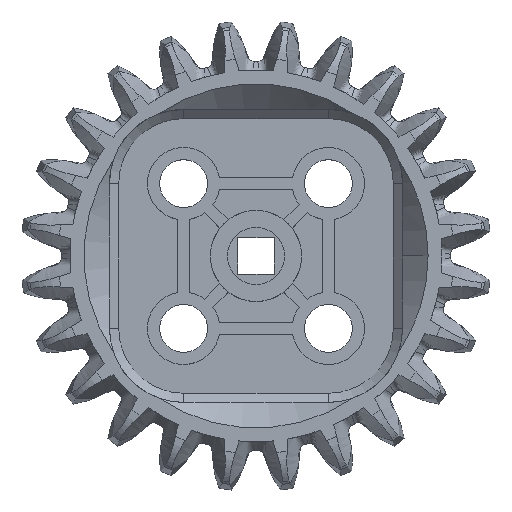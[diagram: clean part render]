
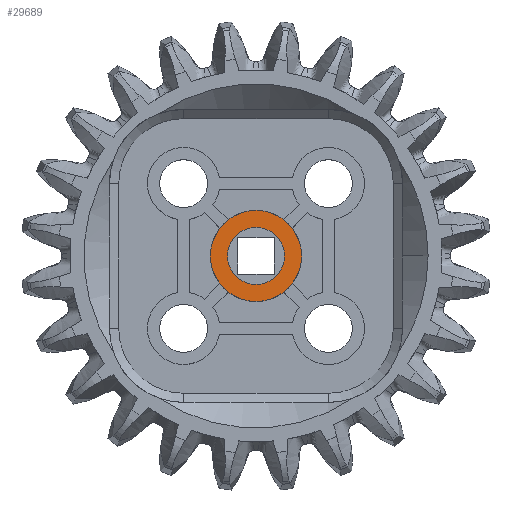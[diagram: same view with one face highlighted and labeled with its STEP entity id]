
A CAD part, top view. The second image highlights one B-rep face of the part: STEP entity #29689.
In plain terms, the highlighted planar face has unit normal (0, 0, 1).
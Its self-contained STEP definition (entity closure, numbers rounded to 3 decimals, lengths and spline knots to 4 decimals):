
#3144 = AXIS2_PLACEMENT_3D ( 'NONE', #42223, #20837, #34413 ) ;
#3220 = AXIS2_PLACEMENT_3D ( 'NONE', #28718, #32628, #7077 ) ;
#4988 = CIRCLE ( 'NONE', #3220, 2.5 ) ;
#7077 = DIRECTION ( 'NONE',  ( 1., 0., 0. ) ) ;
#7101 = EDGE_CURVE ( 'NONE', #10433, #46713, #52846, .T. ) ;
#7162 = CARTESIAN_POINT ( 'NONE',  ( 0., 0., 3.175 ) ) ;
#7825 = CIRCLE ( 'NONE', #8703, 2.5 ) ;
#8298 = AXIS2_PLACEMENT_3D ( 'NONE', #42264, #25310, #38646 ) ;
#8703 = AXIS2_PLACEMENT_3D ( 'NONE', #7162, #10762, #53287 ) ;
#9765 = CARTESIAN_POINT ( 'NONE',  ( 0., 0., 3.175 ) ) ;
#10433 = VERTEX_POINT ( 'NONE', #47505 ) ;
#10734 = EDGE_LOOP ( 'NONE', ( #36757, #33454 ) ) ;
#10762 = DIRECTION ( 'NONE',  ( 0., 0., -1. ) ) ;
#11031 = EDGE_CURVE ( 'NONE', #36603, #46009, #4988, .T. ) ;
#11974 = FACE_BOUND ( 'NONE', #28181, .T. ) ;
#17472 = ORIENTED_EDGE ( 'NONE', *, *, #38043, .T. ) ;
#18589 = CARTESIAN_POINT ( 'NONE',  ( 2.5, 0., 3.175 ) ) ;
#20837 = DIRECTION ( 'NONE',  ( 0., 0., 1. ) ) ;
#23334 = ORIENTED_EDGE ( 'NONE', *, *, #11031, .T. ) ;
#25310 = DIRECTION ( 'NONE',  ( 0., 0., 1. ) ) ;
#25526 = CIRCLE ( 'NONE', #32614, 4. ) ;
#26440 = DIRECTION ( 'NONE',  ( 1., 0., 0. ) ) ;
#26717 = DIRECTION ( 'NONE',  ( 0., 0., 1. ) ) ;
#28181 = EDGE_LOOP ( 'NONE', ( #23334, #17472 ) ) ;
#28718 = CARTESIAN_POINT ( 'NONE',  ( 0., 0., 3.175 ) ) ;
#29478 = FACE_OUTER_BOUND ( 'NONE', #10734, .T. ) ;
#29689 = ADVANCED_FACE ( 'NONE', ( #11974, #29478 ), #50324, .T. ) ;
#32230 = CARTESIAN_POINT ( 'NONE',  ( -2.5, 0., 3.175 ) ) ;
#32614 = AXIS2_PLACEMENT_3D ( 'NONE', #9765, #26717, #26440 ) ;
#32628 = DIRECTION ( 'NONE',  ( 0., 0., -1. ) ) ;
#33454 = ORIENTED_EDGE ( 'NONE', *, *, #7101, .T. ) ;
#34413 = DIRECTION ( 'NONE',  ( 1., 0., 0. ) ) ;
#35635 = EDGE_CURVE ( 'NONE', #46713, #10433, #25526, .T. ) ;
#36603 = VERTEX_POINT ( 'NONE', #32230 ) ;
#36757 = ORIENTED_EDGE ( 'NONE', *, *, #35635, .T. ) ;
#38043 = EDGE_CURVE ( 'NONE', #46009, #36603, #7825, .T. ) ;
#38646 = DIRECTION ( 'NONE',  ( 1., 0., 0. ) ) ;
#38695 = CARTESIAN_POINT ( 'NONE',  ( 4., 0., 3.175 ) ) ;
#42223 = CARTESIAN_POINT ( 'NONE',  ( 0., 0., 3.175 ) ) ;
#42264 = CARTESIAN_POINT ( 'NONE',  ( 0., 0., 3.175 ) ) ;
#46009 = VERTEX_POINT ( 'NONE', #18589 ) ;
#46713 = VERTEX_POINT ( 'NONE', #38695 ) ;
#47505 = CARTESIAN_POINT ( 'NONE',  ( -4., 0., 3.175 ) ) ;
#50324 = PLANE ( 'NONE',  #8298 ) ;
#52846 = CIRCLE ( 'NONE', #3144, 4. ) ;
#53287 = DIRECTION ( 'NONE',  ( 1., 0., 0. ) ) ;
